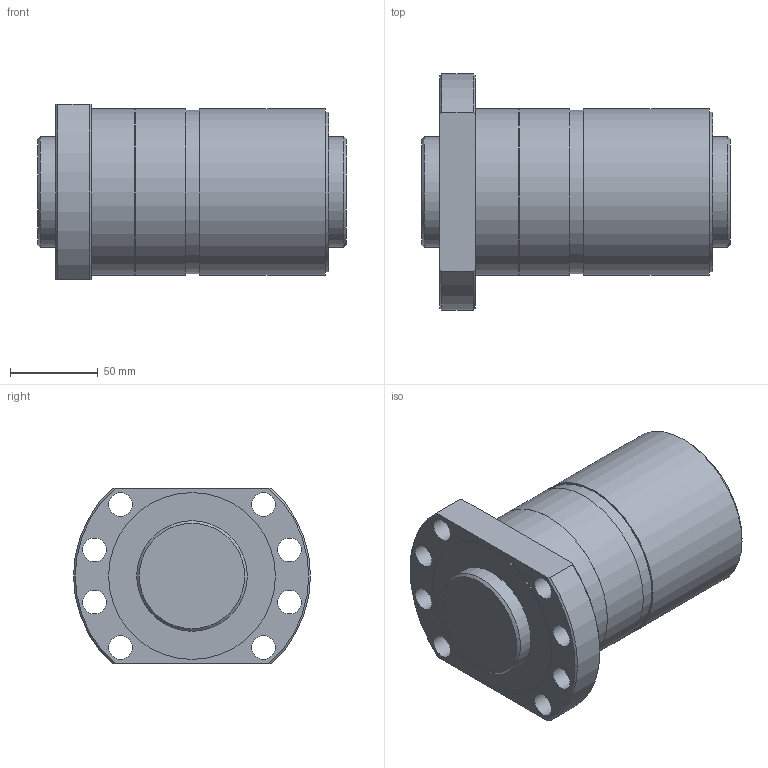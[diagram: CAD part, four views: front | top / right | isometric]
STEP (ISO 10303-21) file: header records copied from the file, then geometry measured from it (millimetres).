
FILE_DESCRIPTION(/* description */ ('STEP AP203'),/* implementation_level */ '2;1');
FILE_NAME(/* name */ 'SDAN6316VX-4G0+176LC0(0G000)',/* time_stamp */ '2024-07-04T07:40:34+02:00',/* author */ ('License CC BY-ND 4.0'),/* organization */ ('CADENAS'),/* preprocessor_version */ 'ST-DEVELOPER v19.3',/* originating_system */ 'PARTsolutions',/* authorisation */ ' ');
FILE_SCHEMA (('CONFIG_CONTROL_DESIGN'));
Length unit declared in the file: millimetre
Products named in the file (3): SDAN6316VX-4G0+176LC0(0G000); 0SDAN6316VX-40Shaft; SDAN6316VX-4_nut
Assembly tree (2 placements, depth 2):
  SDAN6316VX-4G0+176LC0(0G000)
    0SDAN6316VX-40Shaft
    SDAN6316VX-4_nut
Bounding box: 176 x 135 x 100 mm (x, y, z)
Volume: 1240847.2 mm3; surface area: 144365.7 mm2
Topology: 2 solids, 2 shells, 41 faces, 95 edges, 65 vertices
Faces by surface type: cylinder 21, plane 13, cone 7
Full cylindrical faces by diameter (mm): 5.2 x1, 6.917 x1, 13.5 x8, 63 x2, 91 x1, 93 x1, 93.1 x1, 95 x4
Entity records: 1143 total; most frequent: CARTESIAN_POINT 208, DIRECTION 188, ORIENTED_EDGE 128, EDGE_LOOP 90, FACE_BOUND 90, AXIS2_PLACEMENT_3D 90, EDGE_CURVE 64, VERTEX_POINT 56
